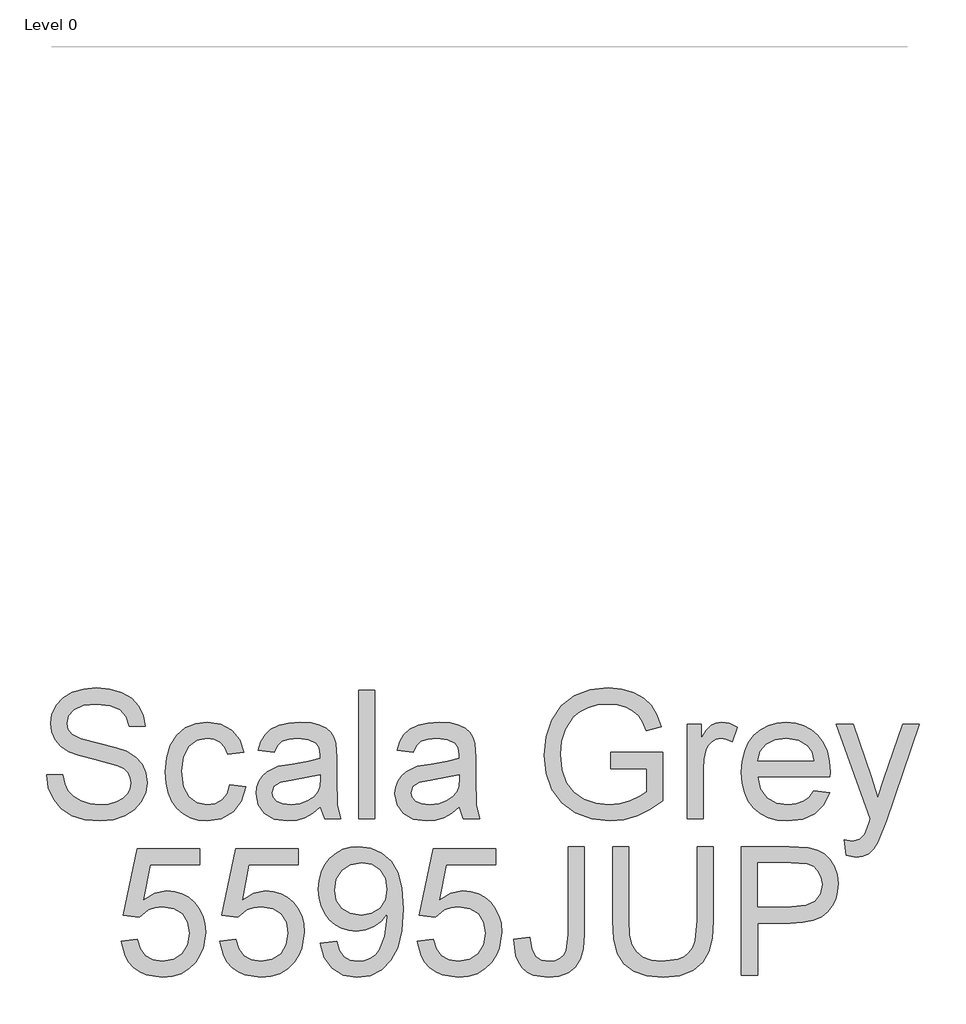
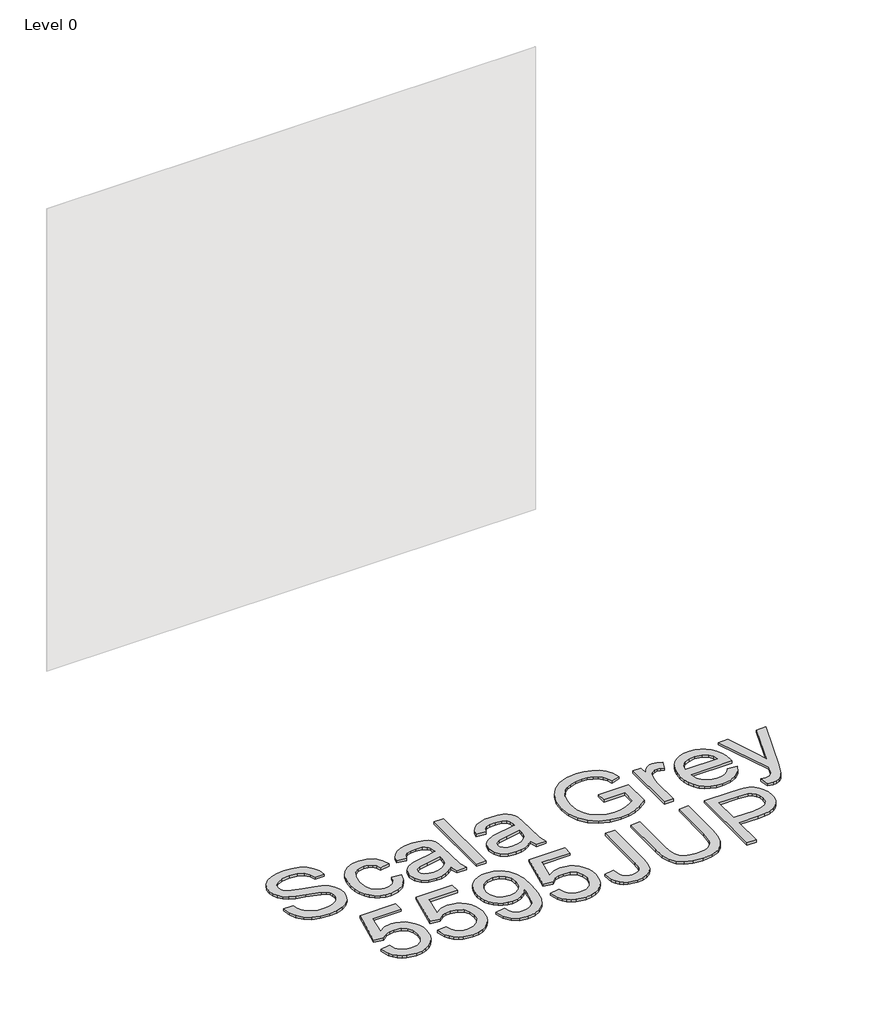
# One storey, part 27 of 29: 1 proxy.
"""IFC4 building model written with IfcOpenShell, lengths in millimetres."""

from ifc_helpers import new_model, si_unit, origin, origin_with_axes, place, context, project, spatial, polyline, outline, extrude, element, save

model = new_model("IFC4")

# Units and contexts
model_context = context("Model", 3, world=origin())
ifc_project = project(units=[si_unit("LENGTHUNIT", "METRE", prefix="MILLI")], contexts=[model_context])

# Site, building, storey
site = spatial("IfcSite", under=ifc_project)
building = spatial("IfcBuilding", under=site)
storey = spatial("IfcBuildingStorey", under=building, Name="Level 0", Elevation=0.0)

# Proxy
placement = place(None, origin())
element("IfcBuildingElementProxy", 1, Name="300mm Arial", ObjectType="300mm Arial", at=placement, inside=storey, context=model_context, shape_type="SweptSolid", body=[
    extrude(outline(polyline([(37536.930693, -6898.2649241), (37574.6018093, -6898.2649241), (37578.9244227, -6919.1698185), (37586.7419151, -6935.9728286), (37598.9372033, -6949.308551), (37616.3932039, -6959.8115819), (37637.7303596, -6966.6265959), (37661.5691129, -6968.8982672), (37682.5567808, -6967.1784189), (37700.9324864, -6962.0188739), (37715.8225102, -6953.8518936), (37726.3531323, -6943.1097394), (37732.6163233, -6930.7764955), (37734.7040536, -6917.8362463), (37733.1405551, -6905.2270909), (37728.4500597, -6894.3285868), (37718.921916, -6885.0303694), (37702.8454728, -6877.222074), (37647.9942673, -6862.837888), (37611.987817, -6853.3189414), (37588.9492071, -6844.2598472), (37570.1964224, -6831.5863125), (37556.9066853, -6816.2272392), (37548.9880254, -6798.5137211), (37546.348472, -6778.7768521), (37549.6134247, -6756.7131294), (37559.4082829, -6736.1393289), (37575.475529, -6718.7017223), (37597.5576458, -6706.0465817), (37624.0635435, -6698.3486509), (37653.4021326, -6695.782674), (37685.187137, -6698.4682126), (37712.9990159, -6706.5248283), (37735.8444878, -6719.7869742), (37752.7302713, -6738.0891034), (37763.4172433, -6760.2907818), (37767.6662803, -6785.2515752), (37729.995164, -6785.2515752), (37723.0789825, -6762.7739853), (37708.6580083, -6746.5503893), (37686.1252361, -6736.7279401), (37654.8736606, -6733.4537903), (37622.8863211, -6736.6911519), (37600.9421601, -6746.4032365), (37588.2502313, -6760.695452), (37584.0195883, -6777.6732061), (37587.0178266, -6792.1493626), (37596.0125414, -6803.7928278), (37617.2761207, -6814.2038882), (37657.522411, -6824.8356779), (37699.0562882, -6834.9340387), (37724.1826285, -6843.7448125), (37745.65774, -6857.4116286), (37760.6397342, -6874.2790181), (37769.441311, -6894.1630399), (37772.3751699, -6916.8797531), (37768.9998526, -6940.102304), (37758.8739007, -6961.9452975), (37742.4111814, -6980.7440675), (37720.025562, -6994.8339479), (37693.105797, -7003.6355246), (37663.0406409, -7006.5693835), (37626.1328797, -7003.4055984), (37595.755024, -6993.9142429), (37571.5575858, -6978.0585289), (37553.1910772, -6955.8016682), (37541.4004592, -6928.6887651), (37536.930693, -6898.2649241)])), origin_with_axes(), (0.0, 0.0, 1.0), 10.0),
    extrude(outline(polyline([(37965.4396409, -6921.8093718), (38003.1107573, -6926.5182614), (37992.6077263, -6960.0231141), (37972.8708573, -6985.3425924), (37945.7579542, -7001.2626857), (37913.1268212, -7006.5693835), (37891.9988984, -7004.7184772), (37873.0552749, -6999.1657584), (37856.2959508, -6989.9112269), (37841.720926, -6976.9548829), (37829.9234102, -6960.5404481), (37821.4966133, -6940.9116444), (37816.4405351, -6918.0684718), (37814.7551757, -6892.0109302), (37817.6338523, -6858.4876834), (37826.2698822, -6829.4342028), (37840.801221, -6805.9725286), (37861.3658245, -6789.2247008), (37885.9679329, -6779.1815223), (37912.6117864, -6775.8337961), (37944.4427761, -6780.4323211), (37969.8910131, -6794.2278959), (37988.1471571, -6816.4847566), (37998.4018677, -6846.4671392), (37960.7307514, -6851.1760288), (37953.8973433, -6834.7409006), (37943.2563566, -6822.9594797), (37929.3964025, -6815.8685543), (37912.906092, -6813.5049125), (37888.561501, -6818.1586197), (37869.2384992, -6832.1197414), (37856.6293438, -6856.1424357), (37852.426292, -6890.9808606), (37856.5373733, -6926.2883351), (37868.8706172, -6950.3938029), (37887.8441311, -6964.2721511), (37911.8760225, -6968.8982672), (37931.3829652, -6966.0103936), (37947.376635, -6957.3467726), (37959.0109031, -6942.6866751), (37965.4396409, -6921.8093718)])), origin_with_axes(), (0.0, 0.0, 1.0), 10.0),
    extrude(outline(polyline([(38177.3396702, -6973.6071568), (38159.3410436, -6989.0398064), (38140.808988, -6999.1381672), (38121.3204394, -7004.7115794), (38100.4523332, -7006.5693835), (38068.9708314, -7002.0996173), (38045.7482805, -6988.6903186), (38031.4284738, -6968.3280501), (38026.6552049, -6942.9993748), (38028.4578267, -6927.3827841), (38033.8656921, -6913.2009331), (38042.2074163, -6901.0608273), (38052.8116148, -6891.5694718), (38079.1887539, -6879.2086368), (38111.7830986, -6873.5432541), (38150.3003435, -6867.5835657), (38177.118941, -6860.5938078), (38177.3396702, -6852.2060983), (38174.7461021, -6835.3938912), (38166.9653979, -6824.3942195), (38149.5645795, -6816.2272392), (38125.3211561, -6813.5049125), (38102.8803543, -6815.3167313), (38087.2085814, -6820.7521878), (38076.5216094, -6830.8045633), (38069.0352108, -6846.4671392), (38031.3640945, -6841.7582497), (38037.9031969, -6821.156858), (38047.6612669, -6804.9700502), (38061.5488122, -6792.590821), (38080.4763408, -6783.4121652), (38103.6253154, -6777.7283884), (38130.1771984, -6775.8337961), (38155.6438295, -6777.5076592), (38175.831354, -6782.5292485), (38191.0524715, -6790.0800264), (38201.6198819, -6799.3414556), (38208.6280339, -6810.7917827), (38213.1713765, -6824.9092543), (38215.0107865, -6857.8714811), (38215.0107865, -6904.7396473), (38216.9237729, -6970.1858542), (38224.4285656, -7001.860494), (38186.7574492, -7001.860494), (38177.3396702, -6973.6071568)]), holes=[polyline([(38177.3396702, -6898.2649241), (38116.5655646, -6909.8164188), (38084.1551608, -6915.9232599), (38069.4766692, -6925.8560738), (38064.3263213, -6940.3506244), (38067.1314215, -6951.5526311), (38075.5467221, -6960.7312869), (38089.3882822, -6966.8565221), (38108.4721607, -6968.8982672), (38128.7056704, -6966.64499), (38146.5847354, -6959.8851583), (38161.079286, -6949.9247533), (38171.1592527, -6938.069756), (38175.6290189, -6925.8560738), (38177.118941, -6908.933502), (38177.3396702, -6898.2649241)])]), origin_with_axes(), (0.0, 0.0, 1.0), 10.0),
    extrude(outline(polyline([(38266.8085714, -7001.860494), (38266.8085714, -6700.4915635), (38304.4796877, -6700.4915635), (38304.4796877, -7001.860494), (38266.8085714, -7001.860494)])), origin_with_axes(), (0.0, 0.0, 1.0), 10.0),
    extrude(outline(polyline([(38502.2530483, -6973.6071568), (38484.2544217, -6989.0398064), (38465.7223662, -6999.1381672), (38446.2338175, -7004.7115794), (38425.3657113, -7006.5693835), (38393.8842096, -7002.0996173), (38370.6616586, -6988.6903186), (38356.341852, -6968.3280501), (38351.5685831, -6942.9993748), (38353.3712049, -6927.3827841), (38358.7790702, -6913.2009331), (38367.1207944, -6901.0608273), (38377.7249929, -6891.5694718), (38404.102132, -6879.2086368), (38436.6964768, -6873.5432541), (38475.2137217, -6867.5835657), (38502.0323191, -6860.5938078), (38502.2530483, -6852.2060983), (38499.6594802, -6835.3938912), (38491.878776, -6824.3942195), (38474.4779577, -6816.2272392), (38450.2345342, -6813.5049125), (38427.7937325, -6815.3167313), (38412.1219595, -6820.7521878), (38401.4349875, -6830.8045633), (38393.9485889, -6846.4671392), (38356.2774726, -6841.7582497), (38362.8165751, -6821.156858), (38372.574645, -6804.9700502), (38386.4621903, -6792.590821), (38405.389719, -6783.4121652), (38428.5386935, -6777.7283884), (38455.0905765, -6775.8337961), (38480.5572076, -6777.5076592), (38500.7447321, -6782.5292485), (38515.9658497, -6790.0800264), (38526.53326, -6799.3414556), (38533.541412, -6810.7917827), (38538.0847546, -6824.9092543), (38539.9241646, -6857.8714811), (38539.9241646, -6904.7396473), (38541.837151, -6970.1858542), (38549.3419437, -7001.860494), (38511.6708274, -7001.860494), (38502.2530483, -6973.6071568)]), holes=[polyline([(38502.2530483, -6898.2649241), (38441.4789427, -6909.8164188), (38409.0685389, -6915.9232599), (38394.3900473, -6925.8560738), (38389.2396994, -6940.3506244), (38392.0447996, -6951.5526311), (38400.4601002, -6960.7312869), (38414.3016603, -6966.8565221), (38433.3855388, -6968.8982672), (38453.6190485, -6966.64499), (38471.4981135, -6959.8851583), (38485.9926641, -6949.9247533), (38496.0726308, -6938.069756), (38500.542397, -6925.8560738), (38502.0323191, -6908.933502), (38502.2530483, -6898.2649241)])]), origin_with_axes(), (0.0, 0.0, 1.0), 10.0),
    extrude(outline(polyline([(38855.4197637, -6884.1382555), (38855.4197637, -6846.4671392), (38977.8508917, -6846.4671392), (38977.8508917, -6959.1126061), (38948.0984353, -6979.8059684), (38917.4078799, -6994.6500069), (38885.8528017, -7003.5895394), (38853.5067773, -7006.5693835), (38811.2463331, -7001.8329028), (38773.050985, -6987.6234608), (38741.3211629, -6964.437698), (38718.4572969, -6932.7722553), (38704.6341309, -6894.7884393), (38700.0264089, -6852.6475567), (38704.6157368, -6810.2031715), (38718.3837205, -6770.7202364), (38740.7601428, -6737.6016598), (38771.1747868, -6714.2503502), (38808.2205037, -6700.399593), (38850.4901449, -6695.782674), (38881.5209912, -6698.4590155), (38909.4248406, -6706.4880401), (38932.923303, -6719.2903335), (38950.7379886, -6736.2864817), (38963.9173611, -6758.295022), (38973.5098841, -6786.134492), (38938.7818238, -6795.9201531), (38931.0287107, -6776.0637224), (38921.6017346, -6761.0817281), (38909.130535, -6749.7877509), (38892.2447514, -6740.9953712), (38872.1124092, -6735.3391855), (38849.9015338, -6733.4537903), (38823.9014737, -6735.4863383), (38801.6722042, -6741.5839824), (38783.2964985, -6750.9833674), (38768.8571302, -6762.9211381), (38749.4697491, -6791.9470275), (38740.6405812, -6820.3843058), (38737.6975252, -6851.1024524), (38741.2383894, -6887.1272967), (38751.860982, -6916.7693885), (38769.2434063, -6939.8171955), (38793.0637655, -6956.0591856), (38820.9400237, -6965.6884968), (38850.4901449, -6968.8982672), (38876.5821755, -6966.4794431), (38902.0304125, -6959.2229707), (38924.1309233, -6949.2257775), (38940.1797754, -6938.5847908), (38940.1797754, -6884.1382555), (38855.4197637, -6884.1382555)])), origin_with_axes(), (0.0, 0.0, 1.0), 10.0),
    extrude(outline(polyline([(39034.3575661, -7001.860494), (39034.3575661, -6780.5426857), (39067.3197929, -6780.5426857), (39067.3197929, -6813.2841833), (39079.4966869, -6794.3014723), (39090.7170878, -6783.1178596), (39101.9742768, -6777.654812), (39114.2615355, -6775.8337961), (39133.0235172, -6778.7400639), (39152.0798046, -6787.4588672), (39139.4982404, -6821.2304343), (39126.2544885, -6815.4362929), (39113.0107367, -6813.5049125), (39101.7627447, -6815.3627165), (39091.7103692, -6820.9361288), (39083.5893741, -6829.8020848), (39078.1355236, -6841.5375205), (39073.5553927, -6862.5803706), (39072.0286824, -6885.5362071), (39072.0286824, -7001.860494), (39034.3575661, -7001.860494)])), origin_with_axes(), (0.0, 0.0, 1.0), 10.0),
    extrude(outline(polyline([(39330.5761486, -6935.9360404), (39367.511501, -6940.64493), (39354.2033698, -6968.4752029), (39332.9673816, -6989.2789297), (39304.281783, -7002.2467701), (39268.6248207, -7006.5693835), (39245.2505184, -7004.7046817), (39224.4237989, -6999.1105761), (39206.1446623, -6989.7870668), (39190.4131085, -6976.7341537), (39177.7625664, -6960.3151204), (39168.7264649, -6940.8932503), (39163.304804, -6918.4685435), (39161.4975837, -6893.0409998), (39163.3231981, -6866.7512327), (39168.8000413, -6843.5792656), (39177.9281133, -6823.5250983), (39190.7074141, -6806.5887309), (39206.3975812, -6793.133447), (39224.258252, -6783.5225298), (39244.2894267, -6777.7559796), (39266.4911051, -6775.8337961), (39287.9777129, -6777.751381), (39307.40878, -6783.5041357), (39324.7843065, -6793.0920602), (39340.1042923, -6806.5151545), (39352.6099809, -6823.4147337), (39361.5426156, -6843.4321128), (39366.9021964, -6866.5672917), (39368.6887234, -6892.8202706), (39368.4679942, -6902.9738137), (39199.1687, -6902.9738137), (39205.6894083, -6931.1719686), (39220.8369495, -6951.902119), (39242.6983371, -6964.6492302), (39269.3605847, -6968.8982672), (39289.4101534, -6966.9300985), (39306.295937, -6961.0255925), (39320.0179354, -6950.8168672), (39330.5761486, -6935.9360404)]), holes=[polyline([(39199.1687, -6865.3026974), (39331.017607, -6865.3026974), (39325.9224414, -6845.4002814), (39315.9344452, -6831.1632482), (39293.9718901, -6817.9194964), (39266.3439523, -6813.5049125), (39240.9508976, -6817.0273826), (39219.9540327, -6827.5947929), (39205.3583145, -6844.0667092), (39199.1687, -6865.3026974)])]), origin_with_axes(), (0.0, 0.0, 1.0), 10.0),
    extrude(outline(polyline([(39406.3598397, -7086.6205057), (39401.6509501, -7050.3473409), (39420.7808139, -7053.6582789), (39438.6598788, -7049.5012124), (39449.6227623, -7037.9129295), (39459.9234582, -7010.1746271), (39462.8665141, -7001.0511536), (39382.815392, -6780.5426857), (39422.5466474, -6780.5426857), (39465.0002297, -6903.4152721), (39479.7890859, -6952.5643066), (39494.5779421, -6909.1542312), (39538.2087467, -6780.5426857), (39577.6456966, -6780.5426857), (39500.6112068, -7007.1579947), (39480.5984263, -7056.3070293), (39470.3529127, -7071.9971964), (39458.7462358, -7082.8681093), (39445.2633606, -7089.2140737), (39429.3892526, -7091.3293952), (39406.3598397, -7086.6205057)])), origin_with_axes(), (0.0, 0.0, 1.0), 10.0),
    extrude(outline(polyline([(37711.1596059, -7287.7338254), (37748.8307222, -7283.0249358), (37755.7469037, -7305.6404815), (37767.8134331, -7321.8364863), (37784.9751282, -7331.5761621), (37807.1768066, -7334.8227207), (37834.1793451, -7330.3069693), (37854.4128548, -7316.7597148), (37867.0496013, -7295.7444558), (37871.2618502, -7268.8246908), (37867.3163158, -7243.4776213), (37855.4797126, -7224.0902402), (37835.6600701, -7211.7845875), (37807.7654178, -7207.6827032), (37789.4908797, -7209.3197781), (37774.6928264, -7214.2310027), (37753.5396117, -7231.2271509), (37715.8684954, -7226.5182614), (37748.8307222, -7071.1249066), (37894.8062979, -7071.1249066), (37894.8062979, -7108.7960229), (37779.2913514, -7108.7960229), (37763.17812, -7191.790201), (37790.0886879, -7175.4562404), (37818.2868429, -7170.0115869), (37836.6326581, -7171.6992456), (37853.4839528, -7176.7622215), (37868.8407268, -7185.2005148), (37882.7029802, -7197.0141254), (37894.1785992, -7211.4810848), (37902.3754699, -7227.8794248), (37907.2935923, -7246.2091452), (37908.9329665, -7266.470246), (37903.0284605, -7304.1413624), (37895.6478279, -7320.9351754), (37885.3149424, -7336.3678251), (37869.6615635, -7352.1729553), (37851.3962224, -7363.4623341), (37830.5189192, -7370.2359613), (37807.0296538, -7372.4938371), (37770.0299222, -7366.6904986), (37754.3512514, -7359.4363255), (37740.5533773, -7349.2804832), (37729.0731598, -7336.7288093), (37720.3474587, -7322.2871418), (37711.1596059, -7287.7338254)])), origin_with_axes(), (0.0, 0.0, 1.0), 10.0),
    extrude(outline(polyline([(37941.8951933, -7287.7338254), (37979.5663096, -7283.0249358), (37986.4824911, -7305.6404815), (37998.5490205, -7321.8364863), (38015.7107156, -7331.5761621), (38037.912394, -7334.8227207), (38064.9149324, -7330.3069693), (38085.1484422, -7316.7597148), (38097.7851887, -7295.7444558), (38101.9974376, -7268.8246908), (38098.0519032, -7243.4776213), (38086.2153, -7224.0902402), (38066.3956575, -7211.7845875), (38038.5010052, -7207.6827032), (38020.2264671, -7209.3197781), (38005.4284138, -7214.2310027), (37984.2751991, -7231.2271509), (37946.6040828, -7226.5182614), (37979.5663096, -7071.1249066), (38125.5418852, -7071.1249066), (38125.5418852, -7108.7960229), (38010.0269388, -7108.7960229), (37993.9137074, -7191.790201), (38020.8242753, -7175.4562404), (38049.0224303, -7170.0115869), (38067.3682455, -7171.6992456), (38084.2195401, -7176.7622215), (38099.5763142, -7185.2005148), (38113.4385676, -7197.0141254), (38124.9141866, -7211.4810848), (38133.1110573, -7227.8794248), (38138.0291797, -7246.2091452), (38139.6685539, -7266.470246), (38133.7640478, -7304.1413624), (38126.3834153, -7320.9351754), (38116.0505298, -7336.3678251), (38100.3971509, -7352.1729553), (38082.1318098, -7363.4623341), (38061.2545066, -7370.2359613), (38037.7652412, -7372.4938371), (38000.7655095, -7366.6904986), (37985.0868388, -7359.4363255), (37971.2889647, -7349.2804832), (37959.8087472, -7336.7288093), (37951.0830461, -7322.2871418), (37941.8951933, -7287.7338254)])), origin_with_axes(), (0.0, 0.0, 1.0), 10.0),
    extrude(outline(polyline([(38177.3396702, -7292.4427149), (38215.0107865, -7287.7338254), (38221.4487214, -7309.1169663), (38231.9333583, -7323.6758963), (38246.2071797, -7332.0360146), (38264.0126682, -7334.8227207), (38279.9879439, -7333.029296), (38294.5100856, -7327.6490218), (38306.5766151, -7319.2705094), (38315.1850538, -7308.4823699), (38327.5091006, -7275.7408723), (38332.9537541, -7232.0364913), (38332.7330249, -7224.6788514), (38319.6824112, -7240.6081418), (38302.6034895, -7253.2264942), (38282.7286647, -7261.4486568), (38261.2903415, -7264.1893777), (38243.3951817, -7262.5155146), (38226.9393602, -7257.4939254), (38211.922877, -7249.12461), (38198.3457321, -7237.4075684), (38187.0954408, -7222.9544045), (38179.0595185, -7206.3767221), (38174.2379651, -7187.6745212), (38172.6307806, -7166.8478018), (38174.31614, -7145.326705), (38179.3722182, -7126.0129003), (38187.7990151, -7108.9063875), (38199.5965309, -7094.0071667), (38213.9324324, -7081.9360387), (38229.9743866, -7073.3138045), (38247.7223936, -7068.1404639), (38267.1764534, -7066.4160171), (38295.2734408, -7070.3523544), (38320.8504365, -7082.1613665), (38342.2427745, -7101.254442), (38357.7857888, -7127.0429699), (38367.2495531, -7162.6907352), (38370.4041412, -7211.3615232), (38367.2587502, -7262.96617), (38357.822577, -7302.8537754), (38342.1783952, -7332.8269609), (38320.4089781, -7354.6883485), (38293.4524249, -7368.0424649), (38262.2468347, -7372.4938371), (38230.038766, -7367.2423216), (38204.3422086, -7351.4877751), (38186.3711732, -7326.2234791), (38177.3396702, -7292.4427149)]), holes=[polyline([(38332.7330249, -7165.964885), (38328.6679289, -7140.4338745), (38316.4726407, -7120.788976), (38297.5451121, -7108.262594), (38273.2832945, -7104.0871334), (38248.120166, -7108.5844908), (38227.9602327, -7122.0765629), (38214.7164809, -7142.7239399), (38210.3018969, -7168.6872117), (38214.4773576, -7191.964945), (38227.0037395, -7210.4418182), (38246.6670322, -7222.4991506), (38272.2532249, -7226.5182614), (38296.3219045, -7222.4991506), (38315.7000886, -7210.4418182), (38328.4747908, -7191.2843633), (38332.7330249, -7165.964885)])]), origin_with_axes(), (0.0, 0.0, 1.0), 10.0),
    extrude(outline(polyline([(38403.366368, -7287.7338254), (38441.0374843, -7283.0249358), (38447.9536658, -7305.6404815), (38460.0201953, -7321.8364863), (38477.1818903, -7331.5761621), (38499.3835687, -7334.8227207), (38526.3861072, -7330.3069693), (38546.6196169, -7316.7597148), (38559.2563635, -7295.7444558), (38563.4686123, -7268.8246908), (38559.5230779, -7243.4776213), (38547.6864747, -7224.0902402), (38527.8668322, -7211.7845875), (38499.9721799, -7207.6827032), (38481.6976418, -7209.3197781), (38466.8995886, -7214.2310027), (38445.7463739, -7231.2271509), (38408.0752575, -7226.5182614), (38441.0374843, -7071.1249066), (38587.01306, -7071.1249066), (38587.01306, -7108.7960229), (38471.4981135, -7108.7960229), (38455.3848821, -7191.790201), (38482.2954501, -7175.4562404), (38510.493605, -7170.0115869), (38528.8394202, -7171.6992456), (38545.6907149, -7176.7622215), (38561.0474889, -7185.2005148), (38574.9097424, -7197.0141254), (38586.3853613, -7211.4810848), (38594.582232, -7227.8794248), (38599.5003545, -7246.2091452), (38601.1397286, -7266.470246), (38595.2352226, -7304.1413624), (38587.8545901, -7320.9351754), (38577.5217045, -7336.3678251), (38561.8683256, -7352.1729553), (38543.6029846, -7363.4623341), (38522.7256813, -7370.2359613), (38499.2364159, -7372.4938371), (38462.2366843, -7366.6904986), (38446.5580135, -7359.4363255), (38432.7601394, -7349.2804832), (38421.2799219, -7336.7288093), (38412.5542208, -7322.2871418), (38403.366368, -7287.7338254)])), origin_with_axes(), (0.0, 0.0, 1.0), 10.0),
    extrude(outline(polyline([(38629.3930658, -7283.1720886), (38667.0641821, -7278.3160463), (38670.9821254, -7305.7048608), (38679.940052, -7322.8297677), (38693.6252622, -7331.8244825), (38711.7250564, -7334.8227207), (38725.6401928, -7333.1212665), (38737.5135842, -7328.0169038), (38746.6738459, -7319.9786822), (38752.4495932, -7309.4756513), (38756.5330834, -7272.1356288), (38756.5330834, -7066.4160171), (38794.2041997, -7066.4160171), (38794.2041997, -7271.4734412), (38791.9325284, -7305.0150821), (38785.1175144, -7330.0034666), (38773.3636847, -7348.2596106), (38756.275566, -7361.60453), (38734.8188486, -7369.7715103), (38709.9592228, -7372.4938371), (38675.1391919, -7366.8744396), (38661.1918658, -7359.8501927), (38649.5529992, -7350.0162472), (38640.4295257, -7337.409391), (38634.028379, -7322.0664126), (38629.3930658, -7283.1720886)])), origin_with_axes(), (0.0, 0.0, 1.0), 10.0),
    extrude(outline(polyline([(39057.9020138, -7066.4160171), (39095.5731301, -7066.4160171), (39095.5731301, -7240.277048), (39093.0163503, -7280.9923878), (39085.3460107, -7312.3451308), (39071.017007, -7336.533372), (39048.4842347, -7355.7552063), (39017.6925118, -7368.3091794), (38978.5866557, -7372.4938371), (38940.3361252, -7368.8518053), (38909.7559344, -7357.92571), (38886.8368861, -7340.0926303), (38871.5697833, -7315.7296452), (38862.9889357, -7283.052527), (38860.1286532, -7240.277048), (38860.1286532, -7066.4160171), (38897.7997695, -7066.4160171), (38897.7997695, -7238.9526728), (38899.6575736, -7272.8070134), (38905.2309858, -7296.3790523), (38915.3293466, -7312.7038158), (38930.7619963, -7324.8163305), (38950.8851414, -7332.3211232), (38975.0549885, -7334.8227207), (39013.3698983, -7329.8747079), (39027.7126976, -7323.6896919), (39038.8457265, -7315.0306694), (39047.1828522, -7302.8537754), (39053.137942, -7286.1151446), (39057.9020138, -7238.9526728), (39057.9020138, -7066.4160171)])), origin_with_axes(), (0.0, 0.0, 1.0), 10.0),
    extrude(outline(polyline([(39161.4975837, -7367.7849475), (39161.4975837, -7066.4160171), (39273.1865574, -7066.4160171), (39318.2153136, -7069.2854966), (39338.2924735, -7074.6473767), (39354.8195721, -7083.375377), (39368.1277033, -7095.8649708), (39378.5479608, -7112.5116311), (39385.2802013, -7132.1473326), (39387.5242815, -7153.6040499), (39386.0090675, -7172.1039158), (39381.4634256, -7189.1230566), (39373.8873558, -7204.6614723), (39363.280858, -7218.7191631), (39348.7196288, -7230.3718253), (39329.2793646, -7238.6951554), (39304.9600655, -7243.6891535), (39275.7617314, -7245.3538195), (39199.1687, -7245.3538195), (39199.1687, -7367.7849475), (39161.4975837, -7367.7849475)]), holes=[polyline([(39199.1687, -7207.6827032), (39277.9690233, -7207.6827032), (39311.3727085, -7204.2246125), (39333.4456282, -7193.8503402), (39345.751281, -7177.2036799), (39349.8531652, -7154.9284251), (39347.4343411, -7138.0058533), (39340.1778687, -7123.7320319), (39328.985059, -7112.9898777), (39314.7572229, -7106.6623073), (39277.0861066, -7104.0871334), (39199.1687, -7104.0871334), (39199.1687, -7207.6827032)])]), origin_with_axes(), (0.0, 0.0, 1.0), 10.0),
])

save(model, "model.ifc")
